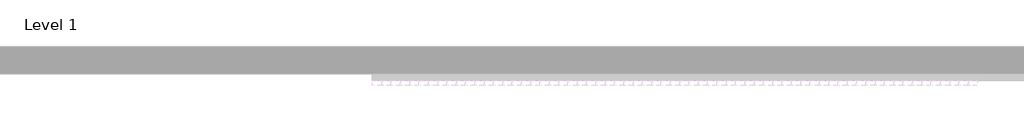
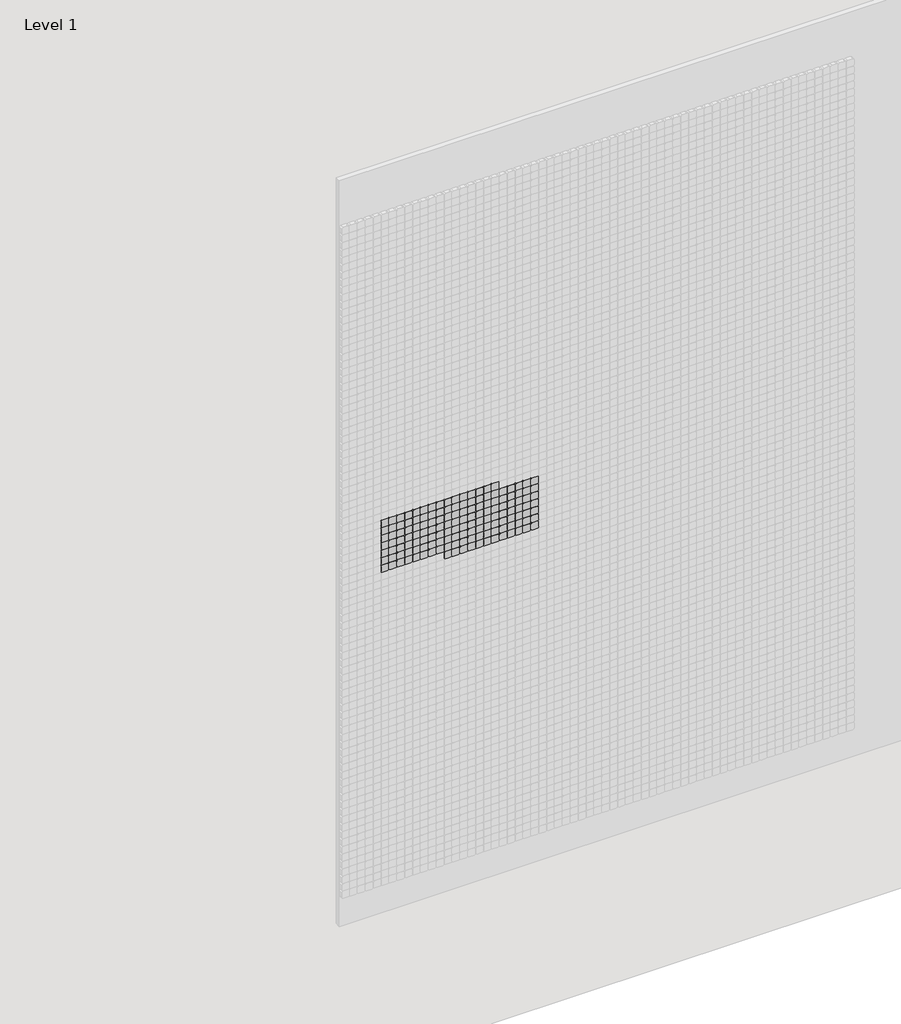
# One storey, part 14 of 71: 147 proxies.
"""IFC4 building model written with IfcOpenShell, lengths in millimetres."""

from ifc_helpers import new_model, si_unit, origin, place, context, project, spatial, transform, mapped, element, save
from components import generic_models_afde289c

model = new_model("IFC4")

# Units and contexts
model_context = context("Model", 3, world=origin())
ifc_project = project(units=[si_unit("LENGTHUNIT", "METRE", prefix="MILLI")], contexts=[model_context])

# Site, building, storey
site = spatial("IfcSite", under=ifc_project)
building = spatial("IfcBuilding", under=site)
storey = spatial("IfcBuildingStorey", under=building, Name="Level 1", Elevation=0.0)

# Proxies
placement = place(None, origin())
generic_models_shape = generic_models_afde289c(model_context)
element("IfcBuildingElementProxy", 1, Name="Pixel_M : Pixel_M", ObjectType="Pixel_M : Pixel_M", at=placement, inside=storey, context=model_context, shape_type="MappedRepresentation", body=[
    mapped(generic_models_shape, transform((5712.4280941, -75.0, 3616.3566215), x_axis=(1.0, 0.0, 0.0), y_axis=(0.0, 0.0, 1.0), z_axis=(0.0, -1.0, 0.0))),
])
element("IfcBuildingElementProxy", 2, Name="Pixel_M : Pixel_M", ObjectType="Pixel_M : Pixel_M", at=placement, inside=storey, context=model_context, shape_type="MappedRepresentation", body=[
    mapped(generic_models_shape, transform((5662.4280941, -75.0, 3616.3566215), x_axis=(1.0, 0.0, 0.0), y_axis=(0.0, 0.0, 1.0), z_axis=(0.0, -1.0, 0.0))),
])
element("IfcBuildingElementProxy", 3, Name="Pixel_M : Pixel_M", ObjectType="Pixel_M : Pixel_M", at=placement, inside=storey, context=model_context, shape_type="MappedRepresentation", body=[
    mapped(generic_models_shape, transform((5612.4280941, -75.0, 3616.3566215), x_axis=(1.0, 0.0, 0.0), y_axis=(0.0, 0.0, 1.0), z_axis=(0.0, -1.0, 0.0))),
])
element("IfcBuildingElementProxy", 4, Name="Pixel_M : Pixel_M", ObjectType="Pixel_M : Pixel_M", at=placement, inside=storey, context=model_context, shape_type="MappedRepresentation", body=[
    mapped(generic_models_shape, transform((5562.4280941, -75.0, 3616.3566215), x_axis=(1.0, 0.0, 0.0), y_axis=(0.0, 0.0, 1.0), z_axis=(0.0, -1.0, 0.0))),
])
element("IfcBuildingElementProxy", 5, Name="Pixel_M : Pixel_M", ObjectType="Pixel_M : Pixel_M", at=placement, inside=storey, context=model_context, shape_type="MappedRepresentation", body=[
    mapped(generic_models_shape, transform((5512.4280941, -75.0, 3616.3566215), x_axis=(1.0, 0.0, 0.0), y_axis=(0.0, 0.0, 1.0), z_axis=(0.0, -1.0, 0.0))),
])
element("IfcBuildingElementProxy", 6, Name="Pixel_M : Pixel_M", ObjectType="Pixel_M : Pixel_M", at=placement, inside=storey, context=model_context, shape_type="MappedRepresentation", body=[
    mapped(generic_models_shape, transform((5462.4280941, -75.0, 3616.3566215), x_axis=(1.0, 0.0, 0.0), y_axis=(0.0, 0.0, 1.0), z_axis=(0.0, -1.0, 0.0))),
])
element("IfcBuildingElementProxy", 7, Name="Pixel_M : Pixel_M", ObjectType="Pixel_M : Pixel_M", at=placement, inside=storey, context=model_context, shape_type="MappedRepresentation", body=[
    mapped(generic_models_shape, transform((5412.4280941, -75.0, 3616.3566215), x_axis=(1.0, 0.0, 0.0), y_axis=(0.0, 0.0, 1.0), z_axis=(0.0, -1.0, 0.0))),
])
element("IfcBuildingElementProxy", 8, Name="Pixel_M : Pixel_M", ObjectType="Pixel_M : Pixel_M", at=placement, inside=storey, context=model_context, shape_type="MappedRepresentation", body=[
    mapped(generic_models_shape, transform((5362.4280941, -75.0, 3616.3566215), x_axis=(1.0, 0.0, 0.0), y_axis=(0.0, 0.0, 1.0), z_axis=(0.0, -1.0, 0.0))),
])
element("IfcBuildingElementProxy", 9, Name="Pixel_M : Pixel_M", ObjectType="Pixel_M : Pixel_M", at=placement, inside=storey, context=model_context, shape_type="MappedRepresentation", body=[
    mapped(generic_models_shape, transform((5312.4280941, -75.0, 3616.3566215), x_axis=(1.0, 0.0, 0.0), y_axis=(0.0, 0.0, 1.0), z_axis=(0.0, -1.0, 0.0))),
])
element("IfcBuildingElementProxy", 10, Name="Pixel_M : Pixel_M", ObjectType="Pixel_M : Pixel_M", at=placement, inside=storey, context=model_context, shape_type="MappedRepresentation", body=[
    mapped(generic_models_shape, transform((5262.4280941, -75.0, 3616.3566215), x_axis=(1.0, 0.0, 0.0), y_axis=(0.0, 0.0, 1.0), z_axis=(0.0, -1.0, 0.0))),
])
element("IfcBuildingElementProxy", 11, Name="Pixel_M : Pixel_M", ObjectType="Pixel_M : Pixel_M", at=placement, inside=storey, context=model_context, shape_type="MappedRepresentation", body=[
    mapped(generic_models_shape, transform((5212.4280941, -75.0, 3616.3566215), x_axis=(1.0, 0.0, 0.0), y_axis=(0.0, 0.0, 1.0), z_axis=(0.0, -1.0, 0.0))),
])
element("IfcBuildingElementProxy", 12, Name="Pixel_M : Pixel_M", ObjectType="Pixel_M : Pixel_M", at=placement, inside=storey, context=model_context, shape_type="MappedRepresentation", body=[
    mapped(generic_models_shape, transform((5162.4280941, -75.0, 3616.3566215), x_axis=(1.0, 0.0, 0.0), y_axis=(0.0, 0.0, 1.0), z_axis=(0.0, -1.0, 0.0))),
])
element("IfcBuildingElementProxy", 13, Name="Pixel_M : Pixel_M", ObjectType="Pixel_M : Pixel_M", at=placement, inside=storey, context=model_context, shape_type="MappedRepresentation", body=[
    mapped(generic_models_shape, transform((5112.4280941, -75.0, 3616.3566215), x_axis=(1.0, 0.0, 0.0), y_axis=(0.0, 0.0, 1.0), z_axis=(0.0, -1.0, 0.0))),
])
element("IfcBuildingElementProxy", 14, Name="Pixel_M : Pixel_M", ObjectType="Pixel_M : Pixel_M", at=placement, inside=storey, context=model_context, shape_type="MappedRepresentation", body=[
    mapped(generic_models_shape, transform((5062.4280941, -75.0, 3616.3566215), x_axis=(1.0, 0.0, 0.0), y_axis=(0.0, 0.0, 1.0), z_axis=(0.0, -1.0, 0.0))),
])
element("IfcBuildingElementProxy", 15, Name="Pixel_M : Pixel_M", ObjectType="Pixel_M : Pixel_M", at=placement, inside=storey, context=model_context, shape_type="MappedRepresentation", body=[
    mapped(generic_models_shape, transform((5012.4280941, -75.0, 3616.3566215), x_axis=(1.0, 0.0, 0.0), y_axis=(0.0, 0.0, 1.0), z_axis=(0.0, -1.0, 0.0))),
])
element("IfcBuildingElementProxy", 16, Name="Pixel_M : Pixel_M", ObjectType="Pixel_M : Pixel_M", at=placement, inside=storey, context=model_context, shape_type="MappedRepresentation", body=[
    mapped(generic_models_shape, transform((5962.4280941, -75.0, 3566.3566215), x_axis=(1.0, 0.0, 0.0), y_axis=(0.0, 0.0, 1.0), z_axis=(0.0, -1.0, 0.0))),
])
element("IfcBuildingElementProxy", 17, Name="Pixel_M : Pixel_M", ObjectType="Pixel_M : Pixel_M", at=placement, inside=storey, context=model_context, shape_type="MappedRepresentation", body=[
    mapped(generic_models_shape, transform((5912.4280941, -75.0, 3566.3566215), x_axis=(1.0, 0.0, 0.0), y_axis=(0.0, 0.0, 1.0), z_axis=(0.0, -1.0, 0.0))),
])
element("IfcBuildingElementProxy", 18, Name="Pixel_M : Pixel_M", ObjectType="Pixel_M : Pixel_M", at=placement, inside=storey, context=model_context, shape_type="MappedRepresentation", body=[
    mapped(generic_models_shape, transform((5862.4280941, -75.0, 3566.3566215), x_axis=(1.0, 0.0, 0.0), y_axis=(0.0, 0.0, 1.0), z_axis=(0.0, -1.0, 0.0))),
])
element("IfcBuildingElementProxy", 19, Name="Pixel_M : Pixel_M", ObjectType="Pixel_M : Pixel_M", at=placement, inside=storey, context=model_context, shape_type="MappedRepresentation", body=[
    mapped(generic_models_shape, transform((5812.4280941, -75.0, 3566.3566215), x_axis=(1.0, 0.0, 0.0), y_axis=(0.0, 0.0, 1.0), z_axis=(0.0, -1.0, 0.0))),
])
element("IfcBuildingElementProxy", 20, Name="Pixel_M : Pixel_M", ObjectType="Pixel_M : Pixel_M", at=placement, inside=storey, context=model_context, shape_type="MappedRepresentation", body=[
    mapped(generic_models_shape, transform((5762.4280941, -75.0, 3566.3566215), x_axis=(1.0, 0.0, 0.0), y_axis=(0.0, 0.0, 1.0), z_axis=(0.0, -1.0, 0.0))),
])
element("IfcBuildingElementProxy", 21, Name="Pixel_M : Pixel_M", ObjectType="Pixel_M : Pixel_M", at=placement, inside=storey, context=model_context, shape_type="MappedRepresentation", body=[
    mapped(generic_models_shape, transform((5712.4280941, -75.0, 3566.3566215), x_axis=(1.0, 0.0, 0.0), y_axis=(0.0, 0.0, 1.0), z_axis=(0.0, -1.0, 0.0))),
])
element("IfcBuildingElementProxy", 22, Name="Pixel_M : Pixel_M", ObjectType="Pixel_M : Pixel_M", at=placement, inside=storey, context=model_context, shape_type="MappedRepresentation", body=[
    mapped(generic_models_shape, transform((5662.4280941, -75.0, 3566.3566215), x_axis=(1.0, 0.0, 0.0), y_axis=(0.0, 0.0, 1.0), z_axis=(0.0, -1.0, 0.0))),
])
element("IfcBuildingElementProxy", 23, Name="Pixel_M : Pixel_M", ObjectType="Pixel_M : Pixel_M", at=placement, inside=storey, context=model_context, shape_type="MappedRepresentation", body=[
    mapped(generic_models_shape, transform((5612.4280941, -75.0, 3566.3566215), x_axis=(1.0, 0.0, 0.0), y_axis=(0.0, 0.0, 1.0), z_axis=(0.0, -1.0, 0.0))),
])
element("IfcBuildingElementProxy", 24, Name="Pixel_M : Pixel_M", ObjectType="Pixel_M : Pixel_M", at=placement, inside=storey, context=model_context, shape_type="MappedRepresentation", body=[
    mapped(generic_models_shape, transform((5562.4280941, -75.0, 3566.3566215), x_axis=(1.0, 0.0, 0.0), y_axis=(0.0, 0.0, 1.0), z_axis=(0.0, -1.0, 0.0))),
])
element("IfcBuildingElementProxy", 25, Name="Pixel_M : Pixel_M", ObjectType="Pixel_M : Pixel_M", at=placement, inside=storey, context=model_context, shape_type="MappedRepresentation", body=[
    mapped(generic_models_shape, transform((5512.4280941, -75.0, 3566.3566215), x_axis=(1.0, 0.0, 0.0), y_axis=(0.0, 0.0, 1.0), z_axis=(0.0, -1.0, 0.0))),
])
element("IfcBuildingElementProxy", 26, Name="Pixel_M : Pixel_M", ObjectType="Pixel_M : Pixel_M", at=placement, inside=storey, context=model_context, shape_type="MappedRepresentation", body=[
    mapped(generic_models_shape, transform((5462.4280941, -75.0, 3566.3566215), x_axis=(1.0, 0.0, 0.0), y_axis=(0.0, 0.0, 1.0), z_axis=(0.0, -1.0, 0.0))),
])
element("IfcBuildingElementProxy", 27, Name="Pixel_M : Pixel_M", ObjectType="Pixel_M : Pixel_M", at=placement, inside=storey, context=model_context, shape_type="MappedRepresentation", body=[
    mapped(generic_models_shape, transform((5412.4280941, -75.0, 3566.3566215), x_axis=(1.0, 0.0, 0.0), y_axis=(0.0, 0.0, 1.0), z_axis=(0.0, -1.0, 0.0))),
])
element("IfcBuildingElementProxy", 28, Name="Pixel_M : Pixel_M", ObjectType="Pixel_M : Pixel_M", at=placement, inside=storey, context=model_context, shape_type="MappedRepresentation", body=[
    mapped(generic_models_shape, transform((5362.4280941, -75.0, 3566.3566215), x_axis=(1.0, 0.0, 0.0), y_axis=(0.0, 0.0, 1.0), z_axis=(0.0, -1.0, 0.0))),
])
element("IfcBuildingElementProxy", 29, Name="Pixel_M : Pixel_M", ObjectType="Pixel_M : Pixel_M", at=placement, inside=storey, context=model_context, shape_type="MappedRepresentation", body=[
    mapped(generic_models_shape, transform((5312.4280941, -75.0, 3566.3566215), x_axis=(1.0, 0.0, 0.0), y_axis=(0.0, 0.0, 1.0), z_axis=(0.0, -1.0, 0.0))),
])
element("IfcBuildingElementProxy", 30, Name="Pixel_M : Pixel_M", ObjectType="Pixel_M : Pixel_M", at=placement, inside=storey, context=model_context, shape_type="MappedRepresentation", body=[
    mapped(generic_models_shape, transform((5262.4280941, -75.0, 3566.3566215), x_axis=(1.0, 0.0, 0.0), y_axis=(0.0, 0.0, 1.0), z_axis=(0.0, -1.0, 0.0))),
])
element("IfcBuildingElementProxy", 31, Name="Pixel_M : Pixel_M", ObjectType="Pixel_M : Pixel_M", at=placement, inside=storey, context=model_context, shape_type="MappedRepresentation", body=[
    mapped(generic_models_shape, transform((5212.4280941, -75.0, 3566.3566215), x_axis=(1.0, 0.0, 0.0), y_axis=(0.0, 0.0, 1.0), z_axis=(0.0, -1.0, 0.0))),
])
element("IfcBuildingElementProxy", 32, Name="Pixel_M : Pixel_M", ObjectType="Pixel_M : Pixel_M", at=placement, inside=storey, context=model_context, shape_type="MappedRepresentation", body=[
    mapped(generic_models_shape, transform((5162.4280941, -75.0, 3566.3566215), x_axis=(1.0, 0.0, 0.0), y_axis=(0.0, 0.0, 1.0), z_axis=(0.0, -1.0, 0.0))),
])
element("IfcBuildingElementProxy", 33, Name="Pixel_M : Pixel_M", ObjectType="Pixel_M : Pixel_M", at=placement, inside=storey, context=model_context, shape_type="MappedRepresentation", body=[
    mapped(generic_models_shape, transform((5112.4280941, -75.0, 3566.3566215), x_axis=(1.0, 0.0, 0.0), y_axis=(0.0, 0.0, 1.0), z_axis=(0.0, -1.0, 0.0))),
])
element("IfcBuildingElementProxy", 34, Name="Pixel_M : Pixel_M", ObjectType="Pixel_M : Pixel_M", at=placement, inside=storey, context=model_context, shape_type="MappedRepresentation", body=[
    mapped(generic_models_shape, transform((5062.4280941, -75.0, 3566.3566215), x_axis=(1.0, 0.0, 0.0), y_axis=(0.0, 0.0, 1.0), z_axis=(0.0, -1.0, 0.0))),
])
element("IfcBuildingElementProxy", 35, Name="Pixel_M : Pixel_M", ObjectType="Pixel_M : Pixel_M", at=placement, inside=storey, context=model_context, shape_type="MappedRepresentation", body=[
    mapped(generic_models_shape, transform((5012.4280941, -75.0, 3566.3566215), x_axis=(1.0, 0.0, 0.0), y_axis=(0.0, 0.0, 1.0), z_axis=(0.0, -1.0, 0.0))),
])
element("IfcBuildingElementProxy", 36, Name="Pixel_M : Pixel_M", ObjectType="Pixel_M : Pixel_M", at=placement, inside=storey, context=model_context, shape_type="MappedRepresentation", body=[
    mapped(generic_models_shape, transform((5962.4280941, -75.0, 3516.3566215), x_axis=(1.0, 0.0, 0.0), y_axis=(0.0, 0.0, 1.0), z_axis=(0.0, -1.0, 0.0))),
])
element("IfcBuildingElementProxy", 37, Name="Pixel_M : Pixel_M", ObjectType="Pixel_M : Pixel_M", at=placement, inside=storey, context=model_context, shape_type="MappedRepresentation", body=[
    mapped(generic_models_shape, transform((5912.4280941, -75.0, 3516.3566215), x_axis=(1.0, 0.0, 0.0), y_axis=(0.0, 0.0, 1.0), z_axis=(0.0, -1.0, 0.0))),
])
element("IfcBuildingElementProxy", 38, Name="Pixel_M : Pixel_M", ObjectType="Pixel_M : Pixel_M", at=placement, inside=storey, context=model_context, shape_type="MappedRepresentation", body=[
    mapped(generic_models_shape, transform((5862.4280941, -75.0, 3516.3566215), x_axis=(1.0, 0.0, 0.0), y_axis=(0.0, 0.0, 1.0), z_axis=(0.0, -1.0, 0.0))),
])
element("IfcBuildingElementProxy", 39, Name="Pixel_M : Pixel_M", ObjectType="Pixel_M : Pixel_M", at=placement, inside=storey, context=model_context, shape_type="MappedRepresentation", body=[
    mapped(generic_models_shape, transform((5812.4280941, -75.0, 3516.3566215), x_axis=(1.0, 0.0, 0.0), y_axis=(0.0, 0.0, 1.0), z_axis=(0.0, -1.0, 0.0))),
])
element("IfcBuildingElementProxy", 40, Name="Pixel_M : Pixel_M", ObjectType="Pixel_M : Pixel_M", at=placement, inside=storey, context=model_context, shape_type="MappedRepresentation", body=[
    mapped(generic_models_shape, transform((5762.4280941, -75.0, 3516.3566215), x_axis=(1.0, 0.0, 0.0), y_axis=(0.0, 0.0, 1.0), z_axis=(0.0, -1.0, 0.0))),
])
element("IfcBuildingElementProxy", 41, Name="Pixel_M : Pixel_M", ObjectType="Pixel_M : Pixel_M", at=placement, inside=storey, context=model_context, shape_type="MappedRepresentation", body=[
    mapped(generic_models_shape, transform((5712.4280941, -75.0, 3516.3566215), x_axis=(1.0, 0.0, 0.0), y_axis=(0.0, 0.0, 1.0), z_axis=(0.0, -1.0, 0.0))),
])
element("IfcBuildingElementProxy", 42, Name="Pixel_M : Pixel_M", ObjectType="Pixel_M : Pixel_M", at=placement, inside=storey, context=model_context, shape_type="MappedRepresentation", body=[
    mapped(generic_models_shape, transform((5662.4280941, -75.0, 3516.3566215), x_axis=(1.0, 0.0, 0.0), y_axis=(0.0, 0.0, 1.0), z_axis=(0.0, -1.0, 0.0))),
])
element("IfcBuildingElementProxy", 43, Name="Pixel_M : Pixel_M", ObjectType="Pixel_M : Pixel_M", at=placement, inside=storey, context=model_context, shape_type="MappedRepresentation", body=[
    mapped(generic_models_shape, transform((5612.4280941, -75.0, 3516.3566215), x_axis=(1.0, 0.0, 0.0), y_axis=(0.0, 0.0, 1.0), z_axis=(0.0, -1.0, 0.0))),
])
element("IfcBuildingElementProxy", 44, Name="Pixel_M : Pixel_M", ObjectType="Pixel_M : Pixel_M", at=placement, inside=storey, context=model_context, shape_type="MappedRepresentation", body=[
    mapped(generic_models_shape, transform((5562.4280941, -75.0, 3516.3566215), x_axis=(1.0, 0.0, 0.0), y_axis=(0.0, 0.0, 1.0), z_axis=(0.0, -1.0, 0.0))),
])
element("IfcBuildingElementProxy", 45, Name="Pixel_M : Pixel_M", ObjectType="Pixel_M : Pixel_M", at=placement, inside=storey, context=model_context, shape_type="MappedRepresentation", body=[
    mapped(generic_models_shape, transform((5512.4280941, -75.0, 3516.3566215), x_axis=(1.0, 0.0, 0.0), y_axis=(0.0, 0.0, 1.0), z_axis=(0.0, -1.0, 0.0))),
])
element("IfcBuildingElementProxy", 46, Name="Pixel_M : Pixel_M", ObjectType="Pixel_M : Pixel_M", at=placement, inside=storey, context=model_context, shape_type="MappedRepresentation", body=[
    mapped(generic_models_shape, transform((5462.4280941, -75.0, 3516.3566215), x_axis=(1.0, 0.0, 0.0), y_axis=(0.0, 0.0, 1.0), z_axis=(0.0, -1.0, 0.0))),
])
element("IfcBuildingElementProxy", 47, Name="Pixel_M : Pixel_M", ObjectType="Pixel_M : Pixel_M", at=placement, inside=storey, context=model_context, shape_type="MappedRepresentation", body=[
    mapped(generic_models_shape, transform((5412.4280941, -75.0, 3516.3566215), x_axis=(1.0, 0.0, 0.0), y_axis=(0.0, 0.0, 1.0), z_axis=(0.0, -1.0, 0.0))),
])
element("IfcBuildingElementProxy", 48, Name="Pixel_M : Pixel_M", ObjectType="Pixel_M : Pixel_M", at=placement, inside=storey, context=model_context, shape_type="MappedRepresentation", body=[
    mapped(generic_models_shape, transform((5362.4280941, -75.0, 3516.3566215), x_axis=(1.0, 0.0, 0.0), y_axis=(0.0, 0.0, 1.0), z_axis=(0.0, -1.0, 0.0))),
])
element("IfcBuildingElementProxy", 49, Name="Pixel_M : Pixel_M", ObjectType="Pixel_M : Pixel_M", at=placement, inside=storey, context=model_context, shape_type="MappedRepresentation", body=[
    mapped(generic_models_shape, transform((5312.4280941, -75.0, 3516.3566215), x_axis=(1.0, 0.0, 0.0), y_axis=(0.0, 0.0, 1.0), z_axis=(0.0, -1.0, 0.0))),
])
element("IfcBuildingElementProxy", 50, Name="Pixel_M : Pixel_M", ObjectType="Pixel_M : Pixel_M", at=placement, inside=storey, context=model_context, shape_type="MappedRepresentation", body=[
    mapped(generic_models_shape, transform((5262.4280941, -75.0, 3516.3566215), x_axis=(1.0, 0.0, 0.0), y_axis=(0.0, 0.0, 1.0), z_axis=(0.0, -1.0, 0.0))),
])
element("IfcBuildingElementProxy", 51, Name="Pixel_M : Pixel_M", ObjectType="Pixel_M : Pixel_M", at=placement, inside=storey, context=model_context, shape_type="MappedRepresentation", body=[
    mapped(generic_models_shape, transform((5212.4280941, -75.0, 3516.3566215), x_axis=(1.0, 0.0, 0.0), y_axis=(0.0, 0.0, 1.0), z_axis=(0.0, -1.0, 0.0))),
])
element("IfcBuildingElementProxy", 52, Name="Pixel_M : Pixel_M", ObjectType="Pixel_M : Pixel_M", at=placement, inside=storey, context=model_context, shape_type="MappedRepresentation", body=[
    mapped(generic_models_shape, transform((5162.4280941, -75.0, 3516.3566215), x_axis=(1.0, 0.0, 0.0), y_axis=(0.0, 0.0, 1.0), z_axis=(0.0, -1.0, 0.0))),
])
element("IfcBuildingElementProxy", 53, Name="Pixel_M : Pixel_M", ObjectType="Pixel_M : Pixel_M", at=placement, inside=storey, context=model_context, shape_type="MappedRepresentation", body=[
    mapped(generic_models_shape, transform((5112.4280941, -75.0, 3516.3566215), x_axis=(1.0, 0.0, 0.0), y_axis=(0.0, 0.0, 1.0), z_axis=(0.0, -1.0, 0.0))),
])
element("IfcBuildingElementProxy", 54, Name="Pixel_M : Pixel_M", ObjectType="Pixel_M : Pixel_M", at=placement, inside=storey, context=model_context, shape_type="MappedRepresentation", body=[
    mapped(generic_models_shape, transform((5062.4280941, -75.0, 3516.3566215), x_axis=(1.0, 0.0, 0.0), y_axis=(0.0, 0.0, 1.0), z_axis=(0.0, -1.0, 0.0))),
])
element("IfcBuildingElementProxy", 55, Name="Pixel_M : Pixel_M", ObjectType="Pixel_M : Pixel_M", at=placement, inside=storey, context=model_context, shape_type="MappedRepresentation", body=[
    mapped(generic_models_shape, transform((5012.4280941, -75.0, 3516.3566215), x_axis=(1.0, 0.0, 0.0), y_axis=(0.0, 0.0, 1.0), z_axis=(0.0, -1.0, 0.0))),
])
element("IfcBuildingElementProxy", 56, Name="Pixel_M : Pixel_M", ObjectType="Pixel_M : Pixel_M", at=placement, inside=storey, context=model_context, shape_type="MappedRepresentation", body=[
    mapped(generic_models_shape, transform((5962.4280941, -75.0, 3466.3566215), x_axis=(1.0, 0.0, 0.0), y_axis=(0.0, 0.0, 1.0), z_axis=(0.0, -1.0, 0.0))),
])
element("IfcBuildingElementProxy", 57, Name="Pixel_M : Pixel_M", ObjectType="Pixel_M : Pixel_M", at=placement, inside=storey, context=model_context, shape_type="MappedRepresentation", body=[
    mapped(generic_models_shape, transform((5912.4280941, -75.0, 3466.3566215), x_axis=(1.0, 0.0, 0.0), y_axis=(0.0, 0.0, 1.0), z_axis=(0.0, -1.0, 0.0))),
])
element("IfcBuildingElementProxy", 58, Name="Pixel_M : Pixel_M", ObjectType="Pixel_M : Pixel_M", at=placement, inside=storey, context=model_context, shape_type="MappedRepresentation", body=[
    mapped(generic_models_shape, transform((5862.4280941, -75.0, 3466.3566215), x_axis=(1.0, 0.0, 0.0), y_axis=(0.0, 0.0, 1.0), z_axis=(0.0, -1.0, 0.0))),
])
element("IfcBuildingElementProxy", 59, Name="Pixel_M : Pixel_M", ObjectType="Pixel_M : Pixel_M", at=placement, inside=storey, context=model_context, shape_type="MappedRepresentation", body=[
    mapped(generic_models_shape, transform((5812.4280941, -75.0, 3466.3566215), x_axis=(1.0, 0.0, 0.0), y_axis=(0.0, 0.0, 1.0), z_axis=(0.0, -1.0, 0.0))),
])
element("IfcBuildingElementProxy", 60, Name="Pixel_M : Pixel_M", ObjectType="Pixel_M : Pixel_M", at=placement, inside=storey, context=model_context, shape_type="MappedRepresentation", body=[
    mapped(generic_models_shape, transform((5762.4280941, -75.0, 3466.3566215), x_axis=(1.0, 0.0, 0.0), y_axis=(0.0, 0.0, 1.0), z_axis=(0.0, -1.0, 0.0))),
])
element("IfcBuildingElementProxy", 61, Name="Pixel_M : Pixel_M", ObjectType="Pixel_M : Pixel_M", at=placement, inside=storey, context=model_context, shape_type="MappedRepresentation", body=[
    mapped(generic_models_shape, transform((5712.4280941, -75.0, 3466.3566215), x_axis=(1.0, 0.0, 0.0), y_axis=(0.0, 0.0, 1.0), z_axis=(0.0, -1.0, 0.0))),
])
element("IfcBuildingElementProxy", 62, Name="Pixel_M : Pixel_M", ObjectType="Pixel_M : Pixel_M", at=placement, inside=storey, context=model_context, shape_type="MappedRepresentation", body=[
    mapped(generic_models_shape, transform((5662.4280941, -75.0, 3466.3566215), x_axis=(1.0, 0.0, 0.0), y_axis=(0.0, 0.0, 1.0), z_axis=(0.0, -1.0, 0.0))),
])
element("IfcBuildingElementProxy", 63, Name="Pixel_M : Pixel_M", ObjectType="Pixel_M : Pixel_M", at=placement, inside=storey, context=model_context, shape_type="MappedRepresentation", body=[
    mapped(generic_models_shape, transform((5612.4280941, -75.0, 3466.3566215), x_axis=(1.0, 0.0, 0.0), y_axis=(0.0, 0.0, 1.0), z_axis=(0.0, -1.0, 0.0))),
])
element("IfcBuildingElementProxy", 64, Name="Pixel_M : Pixel_M", ObjectType="Pixel_M : Pixel_M", at=placement, inside=storey, context=model_context, shape_type="MappedRepresentation", body=[
    mapped(generic_models_shape, transform((5562.4280941, -75.0, 3466.3566215), x_axis=(1.0, 0.0, 0.0), y_axis=(0.0, 0.0, 1.0), z_axis=(0.0, -1.0, 0.0))),
])
element("IfcBuildingElementProxy", 65, Name="Pixel_M : Pixel_M", ObjectType="Pixel_M : Pixel_M", at=placement, inside=storey, context=model_context, shape_type="MappedRepresentation", body=[
    mapped(generic_models_shape, transform((5512.4280941, -75.0, 3466.3566215), x_axis=(1.0, 0.0, 0.0), y_axis=(0.0, 0.0, 1.0), z_axis=(0.0, -1.0, 0.0))),
])
element("IfcBuildingElementProxy", 66, Name="Pixel_M : Pixel_M", ObjectType="Pixel_M : Pixel_M", at=placement, inside=storey, context=model_context, shape_type="MappedRepresentation", body=[
    mapped(generic_models_shape, transform((5462.4280941, -75.0, 3466.3566215), x_axis=(1.0, 0.0, 0.0), y_axis=(0.0, 0.0, 1.0), z_axis=(0.0, -1.0, 0.0))),
])
element("IfcBuildingElementProxy", 67, Name="Pixel_M : Pixel_M", ObjectType="Pixel_M : Pixel_M", at=placement, inside=storey, context=model_context, shape_type="MappedRepresentation", body=[
    mapped(generic_models_shape, transform((5412.4280941, -75.0, 3466.3566215), x_axis=(1.0, 0.0, 0.0), y_axis=(0.0, 0.0, 1.0), z_axis=(0.0, -1.0, 0.0))),
])
element("IfcBuildingElementProxy", 68, Name="Pixel_M : Pixel_M", ObjectType="Pixel_M : Pixel_M", at=placement, inside=storey, context=model_context, shape_type="MappedRepresentation", body=[
    mapped(generic_models_shape, transform((5362.4280941, -75.0, 3466.3566215), x_axis=(1.0, 0.0, 0.0), y_axis=(0.0, 0.0, 1.0), z_axis=(0.0, -1.0, 0.0))),
])
element("IfcBuildingElementProxy", 69, Name="Pixel_M : Pixel_M", ObjectType="Pixel_M : Pixel_M", at=placement, inside=storey, context=model_context, shape_type="MappedRepresentation", body=[
    mapped(generic_models_shape, transform((5312.4280941, -75.0, 3466.3566215), x_axis=(1.0, 0.0, 0.0), y_axis=(0.0, 0.0, 1.0), z_axis=(0.0, -1.0, 0.0))),
])
element("IfcBuildingElementProxy", 70, Name="Pixel_M : Pixel_M", ObjectType="Pixel_M : Pixel_M", at=placement, inside=storey, context=model_context, shape_type="MappedRepresentation", body=[
    mapped(generic_models_shape, transform((5262.4280941, -75.0, 3466.3566215), x_axis=(1.0, 0.0, 0.0), y_axis=(0.0, 0.0, 1.0), z_axis=(0.0, -1.0, 0.0))),
])
element("IfcBuildingElementProxy", 71, Name="Pixel_M : Pixel_M", ObjectType="Pixel_M : Pixel_M", at=placement, inside=storey, context=model_context, shape_type="MappedRepresentation", body=[
    mapped(generic_models_shape, transform((5212.4280941, -75.0, 3466.3566215), x_axis=(1.0, 0.0, 0.0), y_axis=(0.0, 0.0, 1.0), z_axis=(0.0, -1.0, 0.0))),
])
element("IfcBuildingElementProxy", 72, Name="Pixel_M : Pixel_M", ObjectType="Pixel_M : Pixel_M", at=placement, inside=storey, context=model_context, shape_type="MappedRepresentation", body=[
    mapped(generic_models_shape, transform((5162.4280941, -75.0, 3466.3566215), x_axis=(1.0, 0.0, 0.0), y_axis=(0.0, 0.0, 1.0), z_axis=(0.0, -1.0, 0.0))),
])
element("IfcBuildingElementProxy", 73, Name="Pixel_M : Pixel_M", ObjectType="Pixel_M : Pixel_M", at=placement, inside=storey, context=model_context, shape_type="MappedRepresentation", body=[
    mapped(generic_models_shape, transform((5112.4280941, -75.0, 3466.3566215), x_axis=(1.0, 0.0, 0.0), y_axis=(0.0, 0.0, 1.0), z_axis=(0.0, -1.0, 0.0))),
])
element("IfcBuildingElementProxy", 74, Name="Pixel_M : Pixel_M", ObjectType="Pixel_M : Pixel_M", at=placement, inside=storey, context=model_context, shape_type="MappedRepresentation", body=[
    mapped(generic_models_shape, transform((5062.4280941, -75.0, 3466.3566215), x_axis=(1.0, 0.0, 0.0), y_axis=(0.0, 0.0, 1.0), z_axis=(0.0, -1.0, 0.0))),
])
element("IfcBuildingElementProxy", 75, Name="Pixel_M : Pixel_M", ObjectType="Pixel_M : Pixel_M", at=placement, inside=storey, context=model_context, shape_type="MappedRepresentation", body=[
    mapped(generic_models_shape, transform((5012.4280941, -75.0, 3466.3566215), x_axis=(1.0, 0.0, 0.0), y_axis=(0.0, 0.0, 1.0), z_axis=(0.0, -1.0, 0.0))),
])
element("IfcBuildingElementProxy", 76, Name="Pixel_M : Pixel_M", ObjectType="Pixel_M : Pixel_M", at=placement, inside=storey, context=model_context, shape_type="MappedRepresentation", body=[
    mapped(generic_models_shape, transform((5962.4280941, -75.0, 3416.3566215), x_axis=(1.0, 0.0, 0.0), y_axis=(0.0, 0.0, 1.0), z_axis=(0.0, -1.0, 0.0))),
])
element("IfcBuildingElementProxy", 77, Name="Pixel_M : Pixel_M", ObjectType="Pixel_M : Pixel_M", at=placement, inside=storey, context=model_context, shape_type="MappedRepresentation", body=[
    mapped(generic_models_shape, transform((5912.4280941, -75.0, 3416.3566215), x_axis=(1.0, 0.0, 0.0), y_axis=(0.0, 0.0, 1.0), z_axis=(0.0, -1.0, 0.0))),
])
element("IfcBuildingElementProxy", 78, Name="Pixel_M : Pixel_M", ObjectType="Pixel_M : Pixel_M", at=placement, inside=storey, context=model_context, shape_type="MappedRepresentation", body=[
    mapped(generic_models_shape, transform((5862.4280941, -75.0, 3416.3566215), x_axis=(1.0, 0.0, 0.0), y_axis=(0.0, 0.0, 1.0), z_axis=(0.0, -1.0, 0.0))),
])
element("IfcBuildingElementProxy", 79, Name="Pixel_M : Pixel_M", ObjectType="Pixel_M : Pixel_M", at=placement, inside=storey, context=model_context, shape_type="MappedRepresentation", body=[
    mapped(generic_models_shape, transform((5812.4280941, -75.0, 3416.3566215), x_axis=(1.0, 0.0, 0.0), y_axis=(0.0, 0.0, 1.0), z_axis=(0.0, -1.0, 0.0))),
])
element("IfcBuildingElementProxy", 80, Name="Pixel_M : Pixel_M", ObjectType="Pixel_M : Pixel_M", at=placement, inside=storey, context=model_context, shape_type="MappedRepresentation", body=[
    mapped(generic_models_shape, transform((5762.4280941, -75.0, 3416.3566215), x_axis=(1.0, 0.0, 0.0), y_axis=(0.0, 0.0, 1.0), z_axis=(0.0, -1.0, 0.0))),
])
element("IfcBuildingElementProxy", 81, Name="Pixel_M : Pixel_M", ObjectType="Pixel_M : Pixel_M", at=placement, inside=storey, context=model_context, shape_type="MappedRepresentation", body=[
    mapped(generic_models_shape, transform((5712.4280941, -75.0, 3416.3566215), x_axis=(1.0, 0.0, 0.0), y_axis=(0.0, 0.0, 1.0), z_axis=(0.0, -1.0, 0.0))),
])
element("IfcBuildingElementProxy", 82, Name="Pixel_M : Pixel_M", ObjectType="Pixel_M : Pixel_M", at=placement, inside=storey, context=model_context, shape_type="MappedRepresentation", body=[
    mapped(generic_models_shape, transform((5662.4280941, -75.0, 3416.3566215), x_axis=(1.0, 0.0, 0.0), y_axis=(0.0, 0.0, 1.0), z_axis=(0.0, -1.0, 0.0))),
])
element("IfcBuildingElementProxy", 83, Name="Pixel_M : Pixel_M", ObjectType="Pixel_M : Pixel_M", at=placement, inside=storey, context=model_context, shape_type="MappedRepresentation", body=[
    mapped(generic_models_shape, transform((5612.4280941, -75.0, 3416.3566215), x_axis=(1.0, 0.0, 0.0), y_axis=(0.0, 0.0, 1.0), z_axis=(0.0, -1.0, 0.0))),
])
element("IfcBuildingElementProxy", 84, Name="Pixel_M : Pixel_M", ObjectType="Pixel_M : Pixel_M", at=placement, inside=storey, context=model_context, shape_type="MappedRepresentation", body=[
    mapped(generic_models_shape, transform((5562.4280941, -75.0, 3416.3566215), x_axis=(1.0, 0.0, 0.0), y_axis=(0.0, 0.0, 1.0), z_axis=(0.0, -1.0, 0.0))),
])
element("IfcBuildingElementProxy", 85, Name="Pixel_M : Pixel_M", ObjectType="Pixel_M : Pixel_M", at=placement, inside=storey, context=model_context, shape_type="MappedRepresentation", body=[
    mapped(generic_models_shape, transform((5512.4280941, -75.0, 3416.3566215), x_axis=(1.0, 0.0, 0.0), y_axis=(0.0, 0.0, 1.0), z_axis=(0.0, -1.0, 0.0))),
])
element("IfcBuildingElementProxy", 86, Name="Pixel_M : Pixel_M", ObjectType="Pixel_M : Pixel_M", at=placement, inside=storey, context=model_context, shape_type="MappedRepresentation", body=[
    mapped(generic_models_shape, transform((5462.4280941, -75.0, 3416.3566215), x_axis=(1.0, 0.0, 0.0), y_axis=(0.0, 0.0, 1.0), z_axis=(0.0, -1.0, 0.0))),
])
element("IfcBuildingElementProxy", 87, Name="Pixel_M : Pixel_M", ObjectType="Pixel_M : Pixel_M", at=placement, inside=storey, context=model_context, shape_type="MappedRepresentation", body=[
    mapped(generic_models_shape, transform((5412.4280941, -75.0, 3416.3566215), x_axis=(1.0, 0.0, 0.0), y_axis=(0.0, 0.0, 1.0), z_axis=(0.0, -1.0, 0.0))),
])
element("IfcBuildingElementProxy", 88, Name="Pixel_M : Pixel_M", ObjectType="Pixel_M : Pixel_M", at=placement, inside=storey, context=model_context, shape_type="MappedRepresentation", body=[
    mapped(generic_models_shape, transform((5362.4280941, -75.0, 3416.3566215), x_axis=(1.0, 0.0, 0.0), y_axis=(0.0, 0.0, 1.0), z_axis=(0.0, -1.0, 0.0))),
])
element("IfcBuildingElementProxy", 89, Name="Pixel_M : Pixel_M", ObjectType="Pixel_M : Pixel_M", at=placement, inside=storey, context=model_context, shape_type="MappedRepresentation", body=[
    mapped(generic_models_shape, transform((5312.4280941, -75.0, 3416.3566215), x_axis=(1.0, 0.0, 0.0), y_axis=(0.0, 0.0, 1.0), z_axis=(0.0, -1.0, 0.0))),
])
element("IfcBuildingElementProxy", 90, Name="Pixel_M : Pixel_M", ObjectType="Pixel_M : Pixel_M", at=placement, inside=storey, context=model_context, shape_type="MappedRepresentation", body=[
    mapped(generic_models_shape, transform((5262.4280941, -75.0, 3416.3566215), x_axis=(1.0, 0.0, 0.0), y_axis=(0.0, 0.0, 1.0), z_axis=(0.0, -1.0, 0.0))),
])
element("IfcBuildingElementProxy", 91, Name="Pixel_M : Pixel_M", ObjectType="Pixel_M : Pixel_M", at=placement, inside=storey, context=model_context, shape_type="MappedRepresentation", body=[
    mapped(generic_models_shape, transform((5212.4280941, -75.0, 3416.3566215), x_axis=(1.0, 0.0, 0.0), y_axis=(0.0, 0.0, 1.0), z_axis=(0.0, -1.0, 0.0))),
])
element("IfcBuildingElementProxy", 92, Name="Pixel_M : Pixel_M", ObjectType="Pixel_M : Pixel_M", at=placement, inside=storey, context=model_context, shape_type="MappedRepresentation", body=[
    mapped(generic_models_shape, transform((5162.4280941, -75.0, 3416.3566215), x_axis=(1.0, 0.0, 0.0), y_axis=(0.0, 0.0, 1.0), z_axis=(0.0, -1.0, 0.0))),
])
element("IfcBuildingElementProxy", 93, Name="Pixel_M : Pixel_M", ObjectType="Pixel_M : Pixel_M", at=placement, inside=storey, context=model_context, shape_type="MappedRepresentation", body=[
    mapped(generic_models_shape, transform((5112.4280941, -75.0, 3416.3566215), x_axis=(1.0, 0.0, 0.0), y_axis=(0.0, 0.0, 1.0), z_axis=(0.0, -1.0, 0.0))),
])
element("IfcBuildingElementProxy", 94, Name="Pixel_M : Pixel_M", ObjectType="Pixel_M : Pixel_M", at=placement, inside=storey, context=model_context, shape_type="MappedRepresentation", body=[
    mapped(generic_models_shape, transform((5062.4280941, -75.0, 3416.3566215), x_axis=(1.0, 0.0, 0.0), y_axis=(0.0, 0.0, 1.0), z_axis=(0.0, -1.0, 0.0))),
])
element("IfcBuildingElementProxy", 95, Name="Pixel_M : Pixel_M", ObjectType="Pixel_M : Pixel_M", at=placement, inside=storey, context=model_context, shape_type="MappedRepresentation", body=[
    mapped(generic_models_shape, transform((5012.4280941, -75.0, 3416.3566215), x_axis=(1.0, 0.0, 0.0), y_axis=(0.0, 0.0, 1.0), z_axis=(0.0, -1.0, 0.0))),
])
element("IfcBuildingElementProxy", 96, Name="Pixel_M : Pixel_M", ObjectType="Pixel_M : Pixel_M", at=placement, inside=storey, context=model_context, shape_type="MappedRepresentation", body=[
    mapped(generic_models_shape, transform((5962.4280941, -75.0, 3366.3566215), x_axis=(1.0, 0.0, 0.0), y_axis=(0.0, 0.0, 1.0), z_axis=(0.0, -1.0, 0.0))),
])
element("IfcBuildingElementProxy", 97, Name="Pixel_M : Pixel_M", ObjectType="Pixel_M : Pixel_M", at=placement, inside=storey, context=model_context, shape_type="MappedRepresentation", body=[
    mapped(generic_models_shape, transform((5912.4280941, -75.0, 3366.3566215), x_axis=(1.0, 0.0, 0.0), y_axis=(0.0, 0.0, 1.0), z_axis=(0.0, -1.0, 0.0))),
])
element("IfcBuildingElementProxy", 98, Name="Pixel_M : Pixel_M", ObjectType="Pixel_M : Pixel_M", at=placement, inside=storey, context=model_context, shape_type="MappedRepresentation", body=[
    mapped(generic_models_shape, transform((5862.4280941, -75.0, 3366.3566215), x_axis=(1.0, 0.0, 0.0), y_axis=(0.0, 0.0, 1.0), z_axis=(0.0, -1.0, 0.0))),
])
element("IfcBuildingElementProxy", 99, Name="Pixel_M : Pixel_M", ObjectType="Pixel_M : Pixel_M", at=placement, inside=storey, context=model_context, shape_type="MappedRepresentation", body=[
    mapped(generic_models_shape, transform((5812.4280941, -75.0, 3366.3566215), x_axis=(1.0, 0.0, 0.0), y_axis=(0.0, 0.0, 1.0), z_axis=(0.0, -1.0, 0.0))),
])
element("IfcBuildingElementProxy", 100, Name="Pixel_M : Pixel_M", ObjectType="Pixel_M : Pixel_M", at=placement, inside=storey, context=model_context, shape_type="MappedRepresentation", body=[
    mapped(generic_models_shape, transform((5762.4280941, -75.0, 3366.3566215), x_axis=(1.0, 0.0, 0.0), y_axis=(0.0, 0.0, 1.0), z_axis=(0.0, -1.0, 0.0))),
])
element("IfcBuildingElementProxy", 101, Name="Pixel_M : Pixel_M", ObjectType="Pixel_M : Pixel_M", at=placement, inside=storey, context=model_context, shape_type="MappedRepresentation", body=[
    mapped(generic_models_shape, transform((5712.4280941, -75.0, 3366.3566215), x_axis=(1.0, 0.0, 0.0), y_axis=(0.0, 0.0, 1.0), z_axis=(0.0, -1.0, 0.0))),
])
element("IfcBuildingElementProxy", 102, Name="Pixel_M : Pixel_M", ObjectType="Pixel_M : Pixel_M", at=placement, inside=storey, context=model_context, shape_type="MappedRepresentation", body=[
    mapped(generic_models_shape, transform((5662.4280941, -75.0, 3366.3566215), x_axis=(1.0, 0.0, 0.0), y_axis=(0.0, 0.0, 1.0), z_axis=(0.0, -1.0, 0.0))),
])
element("IfcBuildingElementProxy", 103, Name="Pixel_M : Pixel_M", ObjectType="Pixel_M : Pixel_M", at=placement, inside=storey, context=model_context, shape_type="MappedRepresentation", body=[
    mapped(generic_models_shape, transform((5612.4280941, -75.0, 3366.3566215), x_axis=(1.0, 0.0, 0.0), y_axis=(0.0, 0.0, 1.0), z_axis=(0.0, -1.0, 0.0))),
])
element("IfcBuildingElementProxy", 104, Name="Pixel_M : Pixel_M", ObjectType="Pixel_M : Pixel_M", at=placement, inside=storey, context=model_context, shape_type="MappedRepresentation", body=[
    mapped(generic_models_shape, transform((5562.4280941, -75.0, 3366.3566215), x_axis=(1.0, 0.0, 0.0), y_axis=(0.0, 0.0, 1.0), z_axis=(0.0, -1.0, 0.0))),
])
element("IfcBuildingElementProxy", 105, Name="Pixel_M : Pixel_M", ObjectType="Pixel_M : Pixel_M", at=placement, inside=storey, context=model_context, shape_type="MappedRepresentation", body=[
    mapped(generic_models_shape, transform((5512.4280941, -75.0, 3366.3566215), x_axis=(1.0, 0.0, 0.0), y_axis=(0.0, 0.0, 1.0), z_axis=(0.0, -1.0, 0.0))),
])
element("IfcBuildingElementProxy", 106, Name="Pixel_M : Pixel_M", ObjectType="Pixel_M : Pixel_M", at=placement, inside=storey, context=model_context, shape_type="MappedRepresentation", body=[
    mapped(generic_models_shape, transform((5462.4280941, -75.0, 3366.3566215), x_axis=(1.0, 0.0, 0.0), y_axis=(0.0, 0.0, 1.0), z_axis=(0.0, -1.0, 0.0))),
])
element("IfcBuildingElementProxy", 107, Name="Pixel_M : Pixel_M", ObjectType="Pixel_M : Pixel_M", at=placement, inside=storey, context=model_context, shape_type="MappedRepresentation", body=[
    mapped(generic_models_shape, transform((5412.4280941, -75.0, 3366.3566215), x_axis=(1.0, 0.0, 0.0), y_axis=(0.0, 0.0, 1.0), z_axis=(0.0, -1.0, 0.0))),
])
element("IfcBuildingElementProxy", 108, Name="Pixel_M : Pixel_M", ObjectType="Pixel_M : Pixel_M", at=placement, inside=storey, context=model_context, shape_type="MappedRepresentation", body=[
    mapped(generic_models_shape, transform((5362.4280941, -75.0, 3366.3566215), x_axis=(1.0, 0.0, 0.0), y_axis=(0.0, 0.0, 1.0), z_axis=(0.0, -1.0, 0.0))),
])
element("IfcBuildingElementProxy", 109, Name="Pixel_M : Pixel_M", ObjectType="Pixel_M : Pixel_M", at=placement, inside=storey, context=model_context, shape_type="MappedRepresentation", body=[
    mapped(generic_models_shape, transform((5312.4280941, -75.0, 3366.3566215), x_axis=(1.0, 0.0, 0.0), y_axis=(0.0, 0.0, 1.0), z_axis=(0.0, -1.0, 0.0))),
])
element("IfcBuildingElementProxy", 110, Name="Pixel_M : Pixel_M", ObjectType="Pixel_M : Pixel_M", at=placement, inside=storey, context=model_context, shape_type="MappedRepresentation", body=[
    mapped(generic_models_shape, transform((5262.4280941, -75.0, 3366.3566215), x_axis=(1.0, 0.0, 0.0), y_axis=(0.0, 0.0, 1.0), z_axis=(0.0, -1.0, 0.0))),
])
element("IfcBuildingElementProxy", 111, Name="Pixel_M : Pixel_M", ObjectType="Pixel_M : Pixel_M", at=placement, inside=storey, context=model_context, shape_type="MappedRepresentation", body=[
    mapped(generic_models_shape, transform((5212.4280941, -75.0, 3366.3566215), x_axis=(1.0, 0.0, 0.0), y_axis=(0.0, 0.0, 1.0), z_axis=(0.0, -1.0, 0.0))),
])
element("IfcBuildingElementProxy", 112, Name="Pixel_M : Pixel_M", ObjectType="Pixel_M : Pixel_M", at=placement, inside=storey, context=model_context, shape_type="MappedRepresentation", body=[
    mapped(generic_models_shape, transform((5162.4280941, -75.0, 3366.3566215), x_axis=(1.0, 0.0, 0.0), y_axis=(0.0, 0.0, 1.0), z_axis=(0.0, -1.0, 0.0))),
])
element("IfcBuildingElementProxy", 113, Name="Pixel_M : Pixel_M", ObjectType="Pixel_M : Pixel_M", at=placement, inside=storey, context=model_context, shape_type="MappedRepresentation", body=[
    mapped(generic_models_shape, transform((5112.4280941, -75.0, 3366.3566215), x_axis=(1.0, 0.0, 0.0), y_axis=(0.0, 0.0, 1.0), z_axis=(0.0, -1.0, 0.0))),
])
element("IfcBuildingElementProxy", 114, Name="Pixel_M : Pixel_M", ObjectType="Pixel_M : Pixel_M", at=placement, inside=storey, context=model_context, shape_type="MappedRepresentation", body=[
    mapped(generic_models_shape, transform((5062.4280941, -75.0, 3366.3566215), x_axis=(1.0, 0.0, 0.0), y_axis=(0.0, 0.0, 1.0), z_axis=(0.0, -1.0, 0.0))),
])
element("IfcBuildingElementProxy", 115, Name="Pixel_M : Pixel_M", ObjectType="Pixel_M : Pixel_M", at=placement, inside=storey, context=model_context, shape_type="MappedRepresentation", body=[
    mapped(generic_models_shape, transform((5012.4280941, -75.0, 3366.3566215), x_axis=(1.0, 0.0, 0.0), y_axis=(0.0, 0.0, 1.0), z_axis=(0.0, -1.0, 0.0))),
])
element("IfcBuildingElementProxy", 116, Name="Pixel_M : Pixel_M", ObjectType="Pixel_M : Pixel_M", at=placement, inside=storey, context=model_context, shape_type="MappedRepresentation", body=[
    mapped(generic_models_shape, transform((5962.4280941, -75.0, 3316.3566215), x_axis=(1.0, 0.0, 0.0), y_axis=(0.0, 0.0, 1.0), z_axis=(0.0, -1.0, 0.0))),
])
element("IfcBuildingElementProxy", 117, Name="Pixel_M : Pixel_M", ObjectType="Pixel_M : Pixel_M", at=placement, inside=storey, context=model_context, shape_type="MappedRepresentation", body=[
    mapped(generic_models_shape, transform((5912.4280941, -75.0, 3316.3566215), x_axis=(1.0, 0.0, 0.0), y_axis=(0.0, 0.0, 1.0), z_axis=(0.0, -1.0, 0.0))),
])
element("IfcBuildingElementProxy", 118, Name="Pixel_M : Pixel_M", ObjectType="Pixel_M : Pixel_M", at=placement, inside=storey, context=model_context, shape_type="MappedRepresentation", body=[
    mapped(generic_models_shape, transform((5862.4280941, -75.0, 3316.3566215), x_axis=(1.0, 0.0, 0.0), y_axis=(0.0, 0.0, 1.0), z_axis=(0.0, -1.0, 0.0))),
])
element("IfcBuildingElementProxy", 119, Name="Pixel_M : Pixel_M", ObjectType="Pixel_M : Pixel_M", at=placement, inside=storey, context=model_context, shape_type="MappedRepresentation", body=[
    mapped(generic_models_shape, transform((5812.4280941, -75.0, 3316.3566215), x_axis=(1.0, 0.0, 0.0), y_axis=(0.0, 0.0, 1.0), z_axis=(0.0, -1.0, 0.0))),
])
element("IfcBuildingElementProxy", 120, Name="Pixel_M : Pixel_M", ObjectType="Pixel_M : Pixel_M", at=placement, inside=storey, context=model_context, shape_type="MappedRepresentation", body=[
    mapped(generic_models_shape, transform((5762.4280941, -75.0, 3316.3566215), x_axis=(1.0, 0.0, 0.0), y_axis=(0.0, 0.0, 1.0), z_axis=(0.0, -1.0, 0.0))),
])
element("IfcBuildingElementProxy", 121, Name="Pixel_M : Pixel_M", ObjectType="Pixel_M : Pixel_M", at=placement, inside=storey, context=model_context, shape_type="MappedRepresentation", body=[
    mapped(generic_models_shape, transform((5712.4280941, -75.0, 3316.3566215), x_axis=(1.0, 0.0, 0.0), y_axis=(0.0, 0.0, 1.0), z_axis=(0.0, -1.0, 0.0))),
])
element("IfcBuildingElementProxy", 122, Name="Pixel_M : Pixel_M", ObjectType="Pixel_M : Pixel_M", at=placement, inside=storey, context=model_context, shape_type="MappedRepresentation", body=[
    mapped(generic_models_shape, transform((5662.4280941, -75.0, 3316.3566215), x_axis=(1.0, 0.0, 0.0), y_axis=(0.0, 0.0, 1.0), z_axis=(0.0, -1.0, 0.0))),
])
element("IfcBuildingElementProxy", 123, Name="Pixel_M : Pixel_M", ObjectType="Pixel_M : Pixel_M", at=placement, inside=storey, context=model_context, shape_type="MappedRepresentation", body=[
    mapped(generic_models_shape, transform((5612.4280941, -75.0, 3316.3566215), x_axis=(1.0, 0.0, 0.0), y_axis=(0.0, 0.0, 1.0), z_axis=(0.0, -1.0, 0.0))),
])
element("IfcBuildingElementProxy", 124, Name="Pixel_M : Pixel_M", ObjectType="Pixel_M : Pixel_M", at=placement, inside=storey, context=model_context, shape_type="MappedRepresentation", body=[
    mapped(generic_models_shape, transform((5562.4280941, -75.0, 3316.3566215), x_axis=(1.0, 0.0, 0.0), y_axis=(0.0, 0.0, 1.0), z_axis=(0.0, -1.0, 0.0))),
])
element("IfcBuildingElementProxy", 125, Name="Pixel_M : Pixel_M", ObjectType="Pixel_M : Pixel_M", at=placement, inside=storey, context=model_context, shape_type="MappedRepresentation", body=[
    mapped(generic_models_shape, transform((5512.4280941, -75.0, 3316.3566215), x_axis=(1.0, 0.0, 0.0), y_axis=(0.0, 0.0, 1.0), z_axis=(0.0, -1.0, 0.0))),
])
element("IfcBuildingElementProxy", 126, Name="Pixel_M : Pixel_M", ObjectType="Pixel_M : Pixel_M", at=placement, inside=storey, context=model_context, shape_type="MappedRepresentation", body=[
    mapped(generic_models_shape, transform((5462.4280941, -75.0, 3316.3566215), x_axis=(1.0, 0.0, 0.0), y_axis=(0.0, 0.0, 1.0), z_axis=(0.0, -1.0, 0.0))),
])
element("IfcBuildingElementProxy", 127, Name="Pixel_M : Pixel_M", ObjectType="Pixel_M : Pixel_M", at=placement, inside=storey, context=model_context, shape_type="MappedRepresentation", body=[
    mapped(generic_models_shape, transform((5412.4280941, -75.0, 3316.3566215), x_axis=(1.0, 0.0, 0.0), y_axis=(0.0, 0.0, 1.0), z_axis=(0.0, -1.0, 0.0))),
])
element("IfcBuildingElementProxy", 128, Name="Pixel_M : Pixel_M", ObjectType="Pixel_M : Pixel_M", at=placement, inside=storey, context=model_context, shape_type="MappedRepresentation", body=[
    mapped(generic_models_shape, transform((5362.4280941, -75.0, 3316.3566215), x_axis=(1.0, 0.0, 0.0), y_axis=(0.0, 0.0, 1.0), z_axis=(0.0, -1.0, 0.0))),
])
element("IfcBuildingElementProxy", 129, Name="Pixel_M : Pixel_M", ObjectType="Pixel_M : Pixel_M", at=placement, inside=storey, context=model_context, shape_type="MappedRepresentation", body=[
    mapped(generic_models_shape, transform((5312.4280941, -75.0, 3316.3566215), x_axis=(1.0, 0.0, 0.0), y_axis=(0.0, 0.0, 1.0), z_axis=(0.0, -1.0, 0.0))),
])
element("IfcBuildingElementProxy", 130, Name="Pixel_M : Pixel_M", ObjectType="Pixel_M : Pixel_M", at=placement, inside=storey, context=model_context, shape_type="MappedRepresentation", body=[
    mapped(generic_models_shape, transform((5262.4280941, -75.0, 3316.3566215), x_axis=(1.0, 0.0, 0.0), y_axis=(0.0, 0.0, 1.0), z_axis=(0.0, -1.0, 0.0))),
])
element("IfcBuildingElementProxy", 131, Name="Pixel_M : Pixel_M", ObjectType="Pixel_M : Pixel_M", at=placement, inside=storey, context=model_context, shape_type="MappedRepresentation", body=[
    mapped(generic_models_shape, transform((5212.4280941, -75.0, 3316.3566215), x_axis=(1.0, 0.0, 0.0), y_axis=(0.0, 0.0, 1.0), z_axis=(0.0, -1.0, 0.0))),
])
element("IfcBuildingElementProxy", 132, Name="Pixel_M : Pixel_M", ObjectType="Pixel_M : Pixel_M", at=placement, inside=storey, context=model_context, shape_type="MappedRepresentation", body=[
    mapped(generic_models_shape, transform((5162.4280941, -75.0, 3316.3566215), x_axis=(1.0, 0.0, 0.0), y_axis=(0.0, 0.0, 1.0), z_axis=(0.0, -1.0, 0.0))),
])
element("IfcBuildingElementProxy", 133, Name="Pixel_M : Pixel_M", ObjectType="Pixel_M : Pixel_M", at=placement, inside=storey, context=model_context, shape_type="MappedRepresentation", body=[
    mapped(generic_models_shape, transform((5112.4280941, -75.0, 3316.3566215), x_axis=(1.0, 0.0, 0.0), y_axis=(0.0, 0.0, 1.0), z_axis=(0.0, -1.0, 0.0))),
])
element("IfcBuildingElementProxy", 134, Name="Pixel_M : Pixel_M", ObjectType="Pixel_M : Pixel_M", at=placement, inside=storey, context=model_context, shape_type="MappedRepresentation", body=[
    mapped(generic_models_shape, transform((5062.4280941, -75.0, 3316.3566215), x_axis=(1.0, 0.0, 0.0), y_axis=(0.0, 0.0, 1.0), z_axis=(0.0, -1.0, 0.0))),
])
element("IfcBuildingElementProxy", 135, Name="Pixel_M : Pixel_M", ObjectType="Pixel_M : Pixel_M", at=placement, inside=storey, context=model_context, shape_type="MappedRepresentation", body=[
    mapped(generic_models_shape, transform((5012.4280941, -75.0, 3316.3566215), x_axis=(1.0, 0.0, 0.0), y_axis=(0.0, 0.0, 1.0), z_axis=(0.0, -1.0, 0.0))),
])
element("IfcBuildingElementProxy", 136, Name="Pixel_M : Pixel_M", ObjectType="Pixel_M : Pixel_M", at=placement, inside=storey, context=model_context, shape_type="MappedRepresentation", body=[
    mapped(generic_models_shape, transform((5962.4280941, -75.0, 3266.3566215), x_axis=(1.0, 0.0, 0.0), y_axis=(0.0, 0.0, 1.0), z_axis=(0.0, -1.0, 0.0))),
])
element("IfcBuildingElementProxy", 137, Name="Pixel_M : Pixel_M", ObjectType="Pixel_M : Pixel_M", at=placement, inside=storey, context=model_context, shape_type="MappedRepresentation", body=[
    mapped(generic_models_shape, transform((5912.4280941, -75.0, 3266.3566215), x_axis=(1.0, 0.0, 0.0), y_axis=(0.0, 0.0, 1.0), z_axis=(0.0, -1.0, 0.0))),
])
element("IfcBuildingElementProxy", 138, Name="Pixel_M : Pixel_M", ObjectType="Pixel_M : Pixel_M", at=placement, inside=storey, context=model_context, shape_type="MappedRepresentation", body=[
    mapped(generic_models_shape, transform((5862.4280941, -75.0, 3266.3566215), x_axis=(1.0, 0.0, 0.0), y_axis=(0.0, 0.0, 1.0), z_axis=(0.0, -1.0, 0.0))),
])
element("IfcBuildingElementProxy", 139, Name="Pixel_M : Pixel_M", ObjectType="Pixel_M : Pixel_M", at=placement, inside=storey, context=model_context, shape_type="MappedRepresentation", body=[
    mapped(generic_models_shape, transform((5812.4280941, -75.0, 3266.3566215), x_axis=(1.0, 0.0, 0.0), y_axis=(0.0, 0.0, 1.0), z_axis=(0.0, -1.0, 0.0))),
])
element("IfcBuildingElementProxy", 140, Name="Pixel_M : Pixel_M", ObjectType="Pixel_M : Pixel_M", at=placement, inside=storey, context=model_context, shape_type="MappedRepresentation", body=[
    mapped(generic_models_shape, transform((5762.4280941, -75.0, 3266.3566215), x_axis=(1.0, 0.0, 0.0), y_axis=(0.0, 0.0, 1.0), z_axis=(0.0, -1.0, 0.0))),
])
element("IfcBuildingElementProxy", 141, Name="Pixel_M : Pixel_M", ObjectType="Pixel_M : Pixel_M", at=placement, inside=storey, context=model_context, shape_type="MappedRepresentation", body=[
    mapped(generic_models_shape, transform((5712.4280941, -75.0, 3266.3566215), x_axis=(1.0, 0.0, 0.0), y_axis=(0.0, 0.0, 1.0), z_axis=(0.0, -1.0, 0.0))),
])
element("IfcBuildingElementProxy", 142, Name="Pixel_M : Pixel_M", ObjectType="Pixel_M : Pixel_M", at=placement, inside=storey, context=model_context, shape_type="MappedRepresentation", body=[
    mapped(generic_models_shape, transform((5662.4280941, -75.0, 3266.3566215), x_axis=(1.0, 0.0, 0.0), y_axis=(0.0, 0.0, 1.0), z_axis=(0.0, -1.0, 0.0))),
])
element("IfcBuildingElementProxy", 143, Name="Pixel_M : Pixel_M", ObjectType="Pixel_M : Pixel_M", at=placement, inside=storey, context=model_context, shape_type="MappedRepresentation", body=[
    mapped(generic_models_shape, transform((5612.4280941, -75.0, 3266.3566215), x_axis=(1.0, 0.0, 0.0), y_axis=(0.0, 0.0, 1.0), z_axis=(0.0, -1.0, 0.0))),
])
element("IfcBuildingElementProxy", 144, Name="Pixel_M : Pixel_M", ObjectType="Pixel_M : Pixel_M", at=placement, inside=storey, context=model_context, shape_type="MappedRepresentation", body=[
    mapped(generic_models_shape, transform((5562.4280941, -75.0, 3266.3566215), x_axis=(1.0, 0.0, 0.0), y_axis=(0.0, 0.0, 1.0), z_axis=(0.0, -1.0, 0.0))),
])
element("IfcBuildingElementProxy", 145, Name="Pixel_M : Pixel_M", ObjectType="Pixel_M : Pixel_M", at=placement, inside=storey, context=model_context, shape_type="MappedRepresentation", body=[
    mapped(generic_models_shape, transform((5512.4280941, -75.0, 3266.3566215), x_axis=(1.0, 0.0, 0.0), y_axis=(0.0, 0.0, 1.0), z_axis=(0.0, -1.0, 0.0))),
])
element("IfcBuildingElementProxy", 146, Name="Pixel_M : Pixel_M", ObjectType="Pixel_M : Pixel_M", at=placement, inside=storey, context=model_context, shape_type="MappedRepresentation", body=[
    mapped(generic_models_shape, transform((5462.4280941, -75.0, 3266.3566215), x_axis=(1.0, 0.0, 0.0), y_axis=(0.0, 0.0, 1.0), z_axis=(0.0, -1.0, 0.0))),
])
element("IfcBuildingElementProxy", 147, Name="Pixel_M : Pixel_M", ObjectType="Pixel_M : Pixel_M", at=placement, inside=storey, context=model_context, shape_type="MappedRepresentation", body=[
    mapped(generic_models_shape, transform((5412.4280941, -75.0, 3266.3566215), x_axis=(1.0, 0.0, 0.0), y_axis=(0.0, 0.0, 1.0), z_axis=(0.0, -1.0, 0.0))),
])

save(model, "model.ifc")
